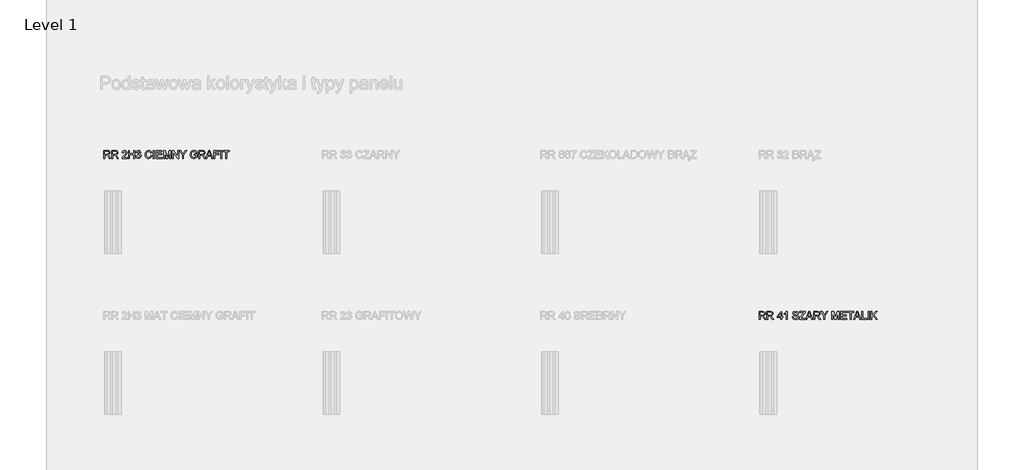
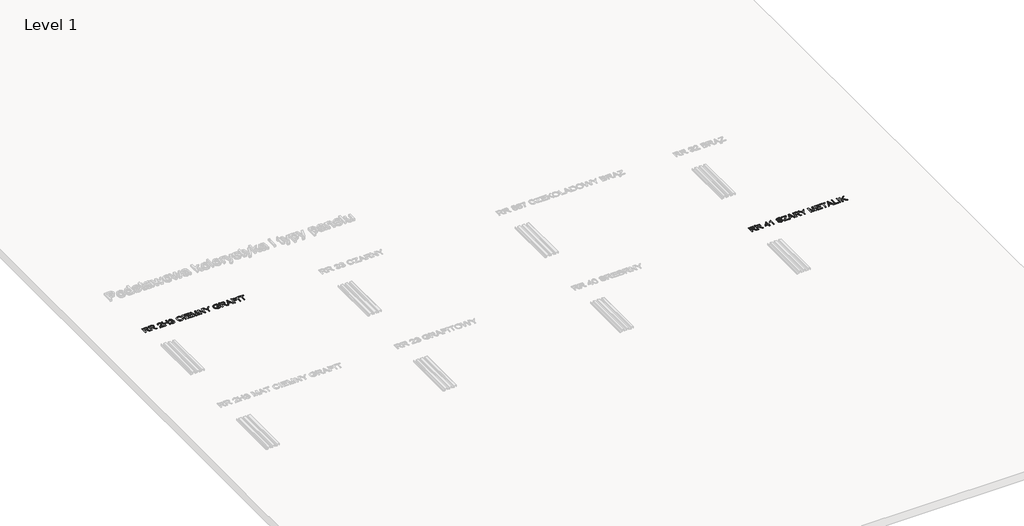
# One storey, part 6 of 9: 2 proxies.
"""IFC4 building model written with IfcOpenShell, lengths in millimetres."""

from ifc_helpers import new_model, si_unit, frame, origin, place, context, project, spatial, polyline, outline, extrude, element, save

model = new_model("IFC4")

# Units and contexts
model_context = context("Model", 3, world=origin())
ifc_project = project(units=[si_unit("LENGTHUNIT", "METRE", prefix="MILLI")], contexts=[model_context])

# Site, building, storey
site = spatial("IfcSite", under=ifc_project)
building = spatial("IfcBuilding", under=site)
storey = spatial("IfcBuildingStorey", under=building, Name="Level 1", Elevation=0.0)

# Proxies
placement = place(None, origin())
element("IfcBuildingElementProxy", 1, Name="150 Blue", ObjectType="150 Blue", at=placement, inside=storey, context=model_context, shape_type="SweptSolid", body=[
    extrude(outline(polyline([(-8736.4118342, 1464.3485888), (-8736.4118342, 1615.033054), (-8671.4806621, 1615.033054), (-8641.3327325, 1610.967958), (-8632.0529092, 1605.3393635), (-8624.8516192, 1596.583772), (-8620.2301016, 1585.7266546), (-8618.6895957, 1573.7934824), (-8621.2417771, 1558.9494439), (-8628.8983211, 1546.6437911), (-8641.8891541, 1537.6214852), (-8660.4442022, 1532.6274871), (-8649.7388361, 1524.5708714), (-8634.4717333, 1505.1834903), (-8609.3453931, 1464.3485888), (-8631.2343718, 1464.3485888), (-8650.8424821, 1495.5817702), (-8665.0059389, 1516.2567383), (-8674.9571469, 1526.0240053), (-8683.9150735, 1529.6108548), (-8694.8411687, 1530.2730423), (-8717.576276, 1530.2730423), (-8717.576276, 1464.3485888), (-8736.4118342, 1464.3485888)]), holes=[polyline([(-8717.576276, 1549.1086005), (-8675.4169994, 1549.1086005), (-8653.9142968, 1551.775745), (-8641.7006145, 1560.3106073), (-8637.5251539, 1573.0945066), (-8639.5163152, 1582.2823594), (-8645.4897991, 1589.6859846), (-8655.7675023, 1594.5696181), (-8670.6713217, 1596.1974959), (-8717.576276, 1596.1974959), (-8717.576276, 1549.1086005)])]), frame((0.0, 0.0, 600.0), z_axis=(0.0, 0.0, 1.0), x_axis=(1.0, 0.0, 0.0)), (0.0, 0.0, 1.0), 10.0),
    extrude(outline(polyline([(-8585.727369, 1464.3485888), (-8585.727369, 1615.033054), (-8520.7961968, 1615.033054), (-8490.6482673, 1610.967958), (-8481.368444, 1605.3393635), (-8474.1671539, 1596.583772), (-8469.5456364, 1585.7266546), (-8468.0051305, 1573.7934824), (-8470.5573119, 1558.9494439), (-8478.2138559, 1546.6437911), (-8491.2046888, 1537.6214852), (-8509.759737, 1532.6274871), (-8499.0543709, 1524.5708714), (-8483.7872681, 1505.1834903), (-8458.6609278, 1464.3485888), (-8480.5499066, 1464.3485888), (-8500.1580169, 1495.5817702), (-8514.3214737, 1516.2567383), (-8524.2726817, 1526.0240053), (-8533.2306083, 1529.6108548), (-8544.1567035, 1530.2730423), (-8566.8918108, 1530.2730423), (-8566.8918108, 1464.3485888), (-8585.727369, 1464.3485888)]), holes=[polyline([(-8566.8918108, 1549.1086005), (-8524.7325342, 1549.1086005), (-8503.2298316, 1551.775745), (-8491.0161493, 1560.3106073), (-8486.8406887, 1573.0945066), (-8488.83185, 1582.2823594), (-8494.8053339, 1589.6859846), (-8505.0830371, 1594.5696181), (-8519.9868564, 1596.1974959), (-8566.8918108, 1596.1974959), (-8566.8918108, 1549.1086005)])]), frame((0.0, 0.0, 600.0), z_axis=(0.0, 0.0, 1.0), x_axis=(1.0, 0.0, 0.0)), (0.0, 0.0, 1.0), 10.0),
    extrude(outline(polyline([(-8286.7128833, 1483.184147), (-8286.7128833, 1464.3485888), (-8385.5995636, 1464.3485888), (-8383.5762126, 1477.3348232), (-8372.1166885, 1497.3292097), (-8348.5170585, 1519.1630061), (-8316.0146842, 1550.5433403), (-8309.9308357, 1561.3590709), (-8307.9028862, 1571.880496), (-8309.8204711, 1581.3120707), (-8315.5732258, 1589.1525557), (-8324.4161893, 1594.4362608), (-8335.6044005, 1596.1974959), (-8347.3536317, 1594.4776476), (-8356.4817037, 1589.3181026), (-8362.3724141, 1581.1235311), (-8364.4095607, 1570.2986034), (-8383.2451188, 1572.6530482), (-8378.6787836, 1590.872404), (-8368.8057505, 1604.1805352), (-8354.1410545, 1612.3199243), (-8335.1997303, 1615.033054), (-8316.1204503, 1612.0164217), (-8301.4833454, 1602.9665246), (-8292.1713324, 1589.4468613), (-8289.0673281, 1573.0209302), (-8292.4150542, 1555.1602593), (-8303.5434846, 1536.6925832), (-8330.5276289, 1510.8856612), (-8352.1958784, 1492.7674729), (-8360.6939525, 1483.184147), (-8286.7128833, 1483.184147)])), frame((0.0, 0.0, 600.0), z_axis=(0.0, 0.0, 1.0), x_axis=(1.0, 0.0, 0.0)), (0.0, 0.0, 1.0), 10.0),
    extrude(outline(polyline([(-8260.8139908, 1464.3485888), (-8260.8139908, 1615.033054), (-8241.9784327, 1615.033054), (-8241.9784327, 1553.81749), (-8161.9273105, 1553.81749), (-8161.9273105, 1615.033054), (-8143.0917524, 1615.033054), (-8143.0917524, 1464.3485888), (-8161.9273105, 1464.3485888), (-8161.9273105, 1534.9819319), (-8241.9784327, 1534.9819319), (-8241.9784327, 1464.3485888), (-8260.8139908, 1464.3485888)])), frame((0.0, 0.0, 600.0), z_axis=(0.0, 0.0, 1.0), x_axis=(1.0, 0.0, 0.0)), (0.0, 0.0, 1.0), 10.0),
    extrude(outline(polyline([(-8117.1928599, 1504.3741499), (-8098.3573018, 1506.7285947), (-8094.1404544, 1494.8919915), (-8087.9646354, 1486.8997551), (-8079.5263421, 1482.3472154), (-8068.522072, 1480.8297022), (-8055.6094139, 1482.9174325), (-8045.6398119, 1489.1806235), (-8039.2662563, 1498.5248262), (-8037.1417378, 1509.8555916), (-8039.2478622, 1520.6115414), (-8045.5662355, 1529.3349433), (-8055.1311673, 1535.1152891), (-8066.9769676, 1537.0420711), (-8080.1839312, 1534.9819319), (-8078.0870038, 1553.81749), (-8075.0703715, 1553.5967608), (-8053.6964276, 1559.0046262), (-8046.5779109, 1565.8656254), (-8044.2050721, 1575.6328924), (-8045.9249204, 1583.767683), (-8051.0844654, 1590.3665663), (-8058.9571401, 1594.7397635), (-8068.8163776, 1596.1974959), (-8078.6940091, 1594.7259679), (-8086.7690189, 1590.311384), (-8092.6643279, 1582.9537441), (-8096.002857, 1572.6530482), (-8114.8384152, 1575.007493), (-8109.2925941, 1591.9208677), (-8099.4241596, 1604.5484172), (-8085.9228903, 1612.4118948), (-8069.4785651, 1615.033054), (-8046.7618519, 1609.864312), (-8030.8693498, 1595.7376434), (-8025.3695139, 1576.7365383), (-8030.5934383, 1559.3725082), (-8046.0444821, 1546.9013085), (-8034.2538641, 1542.1372367), (-8025.5166667, 1534.0254387), (-8020.1088014, 1523.0073729), (-8018.3061796, 1509.5244978), (-8021.9114232, 1491.1671863), (-8032.7271538, 1475.8265071), (-8049.0519174, 1465.4522348), (-8069.1842596, 1461.994144), (-8087.3944183, 1464.9463971), (-8102.2200627, 1473.8031561), (-8112.5299556, 1487.3504106), (-8117.1928599, 1504.3741499)])), frame((0.0, 0.0, 600.0), z_axis=(0.0, 0.0, 1.0), x_axis=(1.0, 0.0, 0.0)), (0.0, 0.0, 1.0), 10.0),
    extrude(outline(polyline([(-7829.9505981, 1517.9122073), (-7811.1150399, 1513.056165), (-7819.8062521, 1491.1074054), (-7833.445477, 1475.072349), (-7851.3613302, 1465.2636953), (-7872.8824269, 1461.994144), (-7894.7300189, 1464.4681505), (-7912.0802535, 1471.8901697), (-7925.3791876, 1484.0026844), (-7935.0728782, 1500.5481771), (-7940.9911798, 1519.9999376), (-7942.963947, 1540.8312556), (-7940.7336624, 1562.8030078), (-7934.0428086, 1581.7765217), (-7923.2408735, 1597.1493905), (-7908.6773451, 1608.3192076), (-7891.4052854, 1615.120426), (-7872.4777567, 1617.3874988), (-7851.8257812, 1614.4536399), (-7834.7514581, 1605.6520632), (-7821.7882163, 1591.5253945), (-7813.4694847, 1572.61626), (-7832.3050429, 1568.1280997), (-7838.8349483, 1581.8638936), (-7847.7560867, 1591.2862712), (-7859.1788226, 1596.7355233), (-7873.2135207, 1598.5519407), (-7889.3911315, 1596.5377867), (-7902.6808685, 1590.495325), (-7912.7654337, 1581.0591518), (-7919.3275288, 1568.8638636), (-7924.1283889, 1540.8680438), (-7922.7074446, 1523.4672254), (-7918.444612, 1508.4208518), (-7911.1789426, 1496.3037386), (-7900.7494881, 1487.6907014), (-7888.2460987, 1482.544952), (-7874.7586251, 1480.8297022), (-7859.0362683, 1483.1657529), (-7845.9350708, 1490.1739049), (-7836.0436436, 1501.7805818), (-7829.9505981, 1517.9122073)])), frame((0.0, 0.0, 600.0), z_axis=(0.0, 0.0, 1.0), x_axis=(1.0, 0.0, 0.0)), (0.0, 0.0, 1.0), 10.0),
    extrude(outline(polyline([(-7782.8617027, 1464.3485888), (-7782.8617027, 1615.033054), (-7764.0261446, 1615.033054), (-7764.0261446, 1464.3485888), (-7782.8617027, 1464.3485888)])), frame((0.0, 0.0, 600.0), z_axis=(0.0, 0.0, 1.0), x_axis=(1.0, 0.0, 0.0)), (0.0, 0.0, 1.0), 10.0),
    extrude(outline(polyline([(-7726.3550282, 1464.3485888), (-7726.3550282, 1615.033054), (-7618.0505689, 1615.033054), (-7618.0505689, 1596.1974959), (-7707.5194701, 1596.1974959), (-7707.5194701, 1551.4630453), (-7622.7594584, 1551.4630453), (-7622.7594584, 1532.6274871), (-7707.5194701, 1532.6274871), (-7707.5194701, 1483.184147), (-7615.6961241, 1483.184147), (-7615.6961241, 1464.3485888), (-7726.3550282, 1464.3485888)])), frame((0.0, 0.0, 600.0), z_axis=(0.0, 0.0, 1.0), x_axis=(1.0, 0.0, 0.0)), (0.0, 0.0, 1.0), 10.0),
    extrude(outline(polyline([(-7587.4427869, 1464.3485888), (-7587.4427869, 1615.033054), (-7555.1427477, 1615.033054), (-7524.2406601, 1508.825522), (-7517.9866662, 1486.6422377), (-7511.2544257, 1510.664932), (-7480.9409493, 1615.033054), (-7448.5305455, 1615.033054), (-7448.5305455, 1464.3485888), (-7467.3661036, 1464.3485888), (-7467.3661036, 1596.1974959), (-7505.2211609, 1464.3485888), (-7530.7153832, 1464.3485888), (-7568.6072287, 1596.1974959), (-7568.6072287, 1464.3485888), (-7587.4427869, 1464.3485888)])), frame((0.0, 0.0, 600.0), z_axis=(0.0, 0.0, 1.0), x_axis=(1.0, 0.0, 0.0)), (0.0, 0.0, 1.0), 10.0),
    extrude(outline(polyline([(-7415.5683187, 1464.3485888), (-7415.5683187, 1615.033054), (-7395.4083854, 1615.033054), (-7316.6816384, 1495.6553466), (-7316.6816384, 1615.033054), (-7297.8460803, 1615.033054), (-7297.8460803, 1464.3485888), (-7318.0060136, 1464.3485888), (-7396.7327606, 1583.7630844), (-7396.7327606, 1464.3485888), (-7415.5683187, 1464.3485888)])), frame((0.0, 0.0, 600.0), z_axis=(0.0, 0.0, 1.0), x_axis=(1.0, 0.0, 0.0)), (0.0, 0.0, 1.0), 10.0),
    extrude(outline(polyline([(-7222.5038477, 1464.3485888), (-7222.5038477, 1528.176115), (-7281.3649669, 1615.033054), (-7259.1816826, 1615.033054), (-7227.7645602, 1568.6431344), (-7211.688117, 1544.951534), (-7195.5380974, 1570.3353916), (-7167.0272428, 1615.033054), (-7144.8071703, 1615.033054), (-7203.6682895, 1528.176115), (-7203.6682895, 1464.3485888), (-7222.5038477, 1464.3485888)])), frame((0.0, 0.0, 600.0), z_axis=(0.0, 0.0, 1.0), x_axis=(1.0, 0.0, 0.0)), (0.0, 0.0, 1.0), 10.0),
    extrude(outline(polyline([(-6998.8315946, 1523.209708), (-6998.8315946, 1542.0452662), (-6937.6160306, 1542.0452662), (-6937.6160306, 1485.7225327), (-6967.8375365, 1467.9538324), (-6999.7880878, 1461.994144), (-7020.9183099, 1464.3623844), (-7040.0159839, 1471.4671054), (-7055.880895, 1483.0599868), (-7067.312828, 1498.8927082), (-7074.224411, 1517.8846162), (-7076.528272, 1538.9550574), (-7074.233608, 1560.17725), (-7067.3496162, 1579.9187176), (-7056.161405, 1596.4780059), (-7040.954083, 1608.1536607), (-7022.4312246, 1615.0790393), (-7001.296404, 1617.3874988), (-6971.8290561, 1612.0348158), (-6960.0798249, 1605.6336691), (-6951.1724821, 1597.135595), (-6939.7865344, 1572.2115898), (-6957.1505645, 1567.3187593), (-6965.7406091, 1584.7379717), (-6980.4191007, 1594.7811502), (-7001.5907095, 1598.5519407), (-7025.7053743, 1594.4868446), (-7042.1129113, 1583.8182667), (-7051.8066019, 1569.305322), (-7057.6927138, 1539.7276096), (-7055.9222817, 1521.7151874), (-7050.6109854, 1506.8941416), (-7041.9197733, 1495.3702381), (-7030.0095937, 1487.249243), (-7016.0714646, 1482.4345874), (-7001.296404, 1480.8297022), (-6975.5262702, 1485.6673504), (-6956.4515887, 1495.9864404), (-6956.4515887, 1523.209708), (-6998.8315946, 1523.209708)])), frame((0.0, 0.0, 600.0), z_axis=(0.0, 0.0, 1.0), x_axis=(1.0, 0.0, 0.0)), (0.0, 0.0, 1.0), 10.0),
    extrude(outline(polyline([(-6907.0082486, 1464.3485888), (-6907.0082486, 1615.033054), (-6842.0770764, 1615.033054), (-6811.9291469, 1610.967958), (-6802.6493236, 1605.3393635), (-6795.4480336, 1596.583772), (-6790.826516, 1585.7266546), (-6789.2860101, 1573.7934824), (-6791.8381915, 1558.9494439), (-6799.4947355, 1546.6437911), (-6812.4855685, 1537.6214852), (-6831.0406166, 1532.6274871), (-6820.3352505, 1524.5708714), (-6805.0681477, 1505.1834903), (-6779.9418075, 1464.3485888), (-6801.8307862, 1464.3485888), (-6821.4388965, 1495.5817702), (-6835.6023533, 1516.2567383), (-6845.5535613, 1526.0240053), (-6854.5114879, 1529.6108548), (-6865.4375831, 1530.2730423), (-6888.1726904, 1530.2730423), (-6888.1726904, 1464.3485888), (-6907.0082486, 1464.3485888)]), holes=[polyline([(-6888.1726904, 1549.1086005), (-6846.0134138, 1549.1086005), (-6824.5107112, 1551.775745), (-6812.2970289, 1560.3106073), (-6808.1215683, 1573.0945066), (-6810.1127296, 1582.2823594), (-6816.0862135, 1589.6859846), (-6826.3639167, 1594.5696181), (-6841.267736, 1596.1974959), (-6888.1726904, 1596.1974959), (-6888.1726904, 1549.1086005)])]), frame((0.0, 0.0, 600.0), z_axis=(0.0, 0.0, 1.0), x_axis=(1.0, 0.0, 0.0)), (0.0, 0.0, 1.0), 10.0),
    extrude(outline(polyline([(-6773.8349663, 1464.3485888), (-6713.6862601, 1615.033054), (-6697.6466051, 1615.033054), (-6637.5346871, 1464.3485888), (-6657.4371031, 1464.3485888), (-6674.6539804, 1511.4374842), (-6736.7524612, 1511.4374842), (-6753.9693386, 1464.3485888), (-6773.8349663, 1464.3485888)]), holes=[polyline([(-6729.8362797, 1530.2730423), (-6681.5333737, 1530.2730423), (-6695.1450076, 1567.3187593), (-6705.7032208, 1596.1974959), (-6715.0842117, 1570.5561208), (-6729.8362797, 1530.2730423)])]), frame((0.0, 0.0, 600.0), z_axis=(0.0, 0.0, 1.0), x_axis=(1.0, 0.0, 0.0)), (0.0, 0.0, 1.0), 10.0),
    extrude(outline(polyline([(-6617.411542, 1464.3485888), (-6617.411542, 1615.033054), (-6516.1704169, 1615.033054), (-6516.1704169, 1596.1974959), (-6598.5759838, 1596.1974959), (-6598.5759838, 1551.4630453), (-6527.9426408, 1551.4630453), (-6527.9426408, 1532.6274871), (-6598.5759838, 1532.6274871), (-6598.5759838, 1464.3485888), (-6617.411542, 1464.3485888)])), frame((0.0, 0.0, 600.0), z_axis=(0.0, 0.0, 1.0), x_axis=(1.0, 0.0, 0.0)), (0.0, 0.0, 1.0), 10.0),
    extrude(outline(polyline([(-6487.9170797, 1464.3485888), (-6487.9170797, 1615.033054), (-6469.0815215, 1615.033054), (-6469.0815215, 1464.3485888), (-6487.9170797, 1464.3485888)])), frame((0.0, 0.0, 600.0), z_axis=(0.0, 0.0, 1.0), x_axis=(1.0, 0.0, 0.0)), (0.0, 0.0, 1.0), 10.0),
    extrude(outline(polyline([(-6393.7392889, 1464.3485888), (-6393.7392889, 1596.1974959), (-6443.1826291, 1596.1974959), (-6443.1826291, 1615.033054), (-6325.4603906, 1615.033054), (-6325.4603906, 1596.1974959), (-6374.9037308, 1596.1974959), (-6374.9037308, 1464.3485888), (-6393.7392889, 1464.3485888)])), frame((0.0, 0.0, 600.0), z_axis=(0.0, 0.0, 1.0), x_axis=(1.0, 0.0, 0.0)), (0.0, 0.0, 1.0), 10.0),
])
element("IfcBuildingElementProxy", 2, Name="150 Blue", ObjectType="150 Blue", at=placement, inside=storey, context=model_context, shape_type="SweptSolid", body=[
    extrude(outline(polyline([(3863.5881658, -1635.6514112), (3863.5881658, -1484.966946), (3928.5193379, -1484.966946), (3958.6672675, -1489.032042), (3967.9470908, -1494.6606365), (3975.1483808, -1503.416228), (3979.7698984, -1514.2733454), (3981.3104043, -1526.2065176), (3978.7582229, -1541.0505561), (3971.1016789, -1553.3562089), (3958.1108459, -1562.3785148), (3939.5557978, -1567.3725129), (3950.2611639, -1575.4291286), (3965.5282667, -1594.8165097), (3990.6546069, -1635.6514112), (3968.7656282, -1635.6514112), (3949.1575179, -1604.4182298), (3934.9940611, -1583.7432617), (3925.0428531, -1573.9759947), (3916.0849265, -1570.3891452), (3905.1588313, -1569.7269577), (3882.423724, -1569.7269577), (3882.423724, -1635.6514112), (3863.5881658, -1635.6514112)]), holes=[polyline([(3882.423724, -1550.8913995), (3924.5830006, -1550.8913995), (3946.0857032, -1548.224255), (3958.2993855, -1539.6893927), (3962.4748461, -1526.9054934), (3960.4836848, -1517.7176406), (3954.5102009, -1510.3140154), (3944.2324977, -1505.4303819), (3929.3286783, -1503.8025041), (3882.423724, -1503.8025041), (3882.423724, -1550.8913995)])]), frame((0.0, 0.0, 600.0), z_axis=(0.0, 0.0, 1.0), x_axis=(1.0, 0.0, 0.0)), (0.0, 0.0, 1.0), 10.0),
    extrude(outline(polyline([(4014.272631, -1635.6514112), (4014.272631, -1484.966946), (4079.2038032, -1484.966946), (4109.3517327, -1489.032042), (4118.631556, -1494.6606365), (4125.8328461, -1503.416228), (4130.4543636, -1514.2733454), (4131.9948695, -1526.2065176), (4129.4426881, -1541.0505561), (4121.7861441, -1553.3562089), (4108.7953112, -1562.3785148), (4090.240263, -1567.3725129), (4100.9456291, -1575.4291286), (4116.2127319, -1594.8165097), (4141.3390722, -1635.6514112), (4119.4500934, -1635.6514112), (4099.8419831, -1604.4182298), (4085.6785263, -1583.7432617), (4075.7273183, -1573.9759947), (4066.7693917, -1570.3891452), (4055.8432965, -1569.7269577), (4033.1081892, -1569.7269577), (4033.1081892, -1635.6514112), (4014.272631, -1635.6514112)]), holes=[polyline([(4033.1081892, -1550.8913995), (4075.2674658, -1550.8913995), (4096.7701684, -1548.224255), (4108.9838507, -1539.6893927), (4113.1593113, -1526.9054934), (4111.16815, -1517.7176406), (4105.1946661, -1510.3140154), (4094.9169629, -1505.4303819), (4080.0131436, -1503.8025041), (4033.1081892, -1503.8025041), (4033.1081892, -1550.8913995)])]), frame((0.0, 0.0, 600.0), z_axis=(0.0, 0.0, 1.0), x_axis=(1.0, 0.0, 0.0)), (0.0, 0.0, 1.0), 10.0),
    extrude(outline(polyline([(4277.9704452, -1635.6514112), (4277.9704452, -1600.3347397), (4209.6915469, -1600.3347397), (4209.6915469, -1581.4991815), (4282.6793347, -1487.3213907), (4296.8060033, -1487.3213907), (4296.8060033, -1581.4991815), (4315.6415615, -1581.4991815), (4315.6415615, -1600.3347397), (4296.8060033, -1600.3347397), (4296.8060033, -1635.6514112), (4277.9704452, -1635.6514112)]), holes=[polyline([(4277.9704452, -1581.4991815), (4277.9704452, -1523.3002499), (4232.8681126, -1581.4991815), (4277.9704452, -1581.4991815)])]), frame((0.0, 0.0, 600.0), z_axis=(0.0, 0.0, 1.0), x_axis=(1.0, 0.0, 0.0)), (0.0, 0.0, 1.0), 10.0),
    extrude(outline(polyline([(4402.7560179, -1635.6514112), (4383.9204598, -1635.6514112), (4383.9204598, -1518.2234783), (4366.078183, -1530.9338013), (4346.2493435, -1540.4435508), (4346.2493435, -1522.6380623), (4373.8588872, -1505.0165147), (4390.6159121, -1484.966946), (4402.7560179, -1484.966946), (4402.7560179, -1635.6514112)])), frame((0.0, 0.0, 600.0), z_axis=(0.0, 0.0, 1.0), x_axis=(1.0, 0.0, 0.0)), (0.0, 0.0, 1.0), 10.0),
    extrude(outline(polyline([(4506.3515878, -1583.8536263), (4525.1871459, -1583.8536263), (4531.2571988, -1602.7075785), (4546.0828432, -1614.6269552), (4568.6707978, -1619.1702978), (4588.3524845, -1615.7306011), (4601.0628074, -1606.2760339), (4605.2382681, -1593.6392873), (4602.1112711, -1581.8854576), (4589.3089777, -1573.3322012), (4561.8833749, -1566.1401082), (4532.3608448, -1556.8510878), (4516.3395839, -1542.8347838), (4511.0604773, -1524.1095903), (4512.6929537, -1513.0777289), (4517.5903827, -1502.7908286), (4525.6240058, -1494.0720253), (4536.6650642, -1487.744455), (4564.5873076, -1482.6125012), (4594.3857492, -1487.9835783), (4605.8084852, -1494.6146513), (4614.251377, -1503.7657159), (4619.5948629, -1514.8665551), (4621.7193815, -1527.3469518), (4602.8838233, -1527.3469518), (4599.4257326, -1516.1081569), (4592.2152454, -1507.9963589), (4580.9488593, -1503.0851342), (4565.3230716, -1501.4480593), (4549.3294019, -1503.0667401), (4538.3573214, -1507.9227825), (4532.0113569, -1515.0688902), (4529.8960355, -1523.5577673), (4531.3951546, -1530.7958455), (4535.892512, -1536.6175781), (4566.6474468, -1547.1390031), (4599.9775555, -1556.5935704), (4610.7151113, -1563.4269785), (4618.2061084, -1571.8606732), (4622.6068968, -1581.8026841), (4624.0738262, -1593.1610407), (4622.3861676, -1604.7723162), (4617.3231916, -1615.6938129), (4609.091832, -1625.0931979), (4597.8990223, -1632.1381381), (4584.4391398, -1636.5389265), (4569.4065617, -1638.005856), (4550.9526812, -1636.4239634), (4535.7637533, -1631.6782856), (4523.6650342, -1623.7504286), (4514.4817799, -1612.6219983), (4508.5864709, -1599.0655468), (4506.3515878, -1583.8536263)])), frame((0.0, 0.0, 600.0), z_axis=(0.0, 0.0, 1.0), x_axis=(1.0, 0.0, 0.0)), (0.0, 0.0, 1.0), 10.0),
    extrude(outline(polyline([(4640.5549396, -1635.6514112), (4640.5549396, -1616.1168772), (4717.5894294, -1521.7183573), (4732.2311328, -1503.8025041), (4649.9727187, -1503.8025041), (4649.9727187, -1484.966946), (4755.9227333, -1484.966946), (4755.9227333, -1503.8025041), (4671.60418, -1607.1037684), (4663.6579289, -1616.815853), (4758.2771781, -1616.815853), (4758.2771781, -1635.6514112), (4640.5549396, -1635.6514112)])), frame((0.0, 0.0, 600.0), z_axis=(0.0, 0.0, 1.0), x_axis=(1.0, 0.0, 0.0)), (0.0, 0.0, 1.0), 10.0),
    extrude(outline(polyline([(4761.955998, -1635.6514112), (4822.1047042, -1484.966946), (4838.1443592, -1484.966946), (4898.2562772, -1635.6514112), (4878.3538613, -1635.6514112), (4861.1369839, -1588.5625158), (4799.0385031, -1588.5625158), (4781.8216258, -1635.6514112), (4761.955998, -1635.6514112)]), holes=[polyline([(4805.9546846, -1569.7269577), (4854.2575906, -1569.7269577), (4840.6459568, -1532.6812407), (4830.0877435, -1503.8025041), (4820.7067526, -1529.4438792), (4805.9546846, -1569.7269577)])]), frame((0.0, 0.0, 600.0), z_axis=(0.0, 0.0, 1.0), x_axis=(1.0, 0.0, 0.0)), (0.0, 0.0, 1.0), 10.0),
    extrude(outline(polyline([(4918.3794224, -1635.6514112), (4918.3794224, -1484.966946), (4983.3105945, -1484.966946), (5013.458524, -1489.032042), (5022.7383474, -1494.6606365), (5029.9396374, -1503.416228), (5034.561155, -1514.2733454), (5036.1016608, -1526.2065176), (5033.5494795, -1541.0505561), (5025.8929355, -1553.3562089), (5012.9021025, -1562.3785148), (4994.3470544, -1567.3725129), (5005.0524204, -1575.4291286), (5020.3195232, -1594.8165097), (5045.4458635, -1635.6514112), (5023.5568848, -1635.6514112), (5003.9487744, -1604.4182298), (4989.7853176, -1583.7432617), (4979.8341097, -1573.9759947), (4970.8761831, -1570.3891452), (4959.9500878, -1569.7269577), (4937.2149805, -1569.7269577), (4937.2149805, -1635.6514112), (4918.3794224, -1635.6514112)]), holes=[polyline([(4937.2149805, -1550.8913995), (4979.3742572, -1550.8913995), (5000.8769598, -1548.224255), (5013.090642, -1539.6893927), (5017.2661027, -1526.9054934), (5015.2749414, -1517.7176406), (5009.3014575, -1510.3140154), (4999.0237542, -1505.4303819), (4984.1199349, -1503.8025041), (4937.2149805, -1503.8025041), (4937.2149805, -1550.8913995)])]), frame((0.0, 0.0, 600.0), z_axis=(0.0, 0.0, 1.0), x_axis=(1.0, 0.0, 0.0)), (0.0, 0.0, 1.0), 10.0),
    extrude(outline(polyline([(5111.4438934, -1635.6514112), (5111.4438934, -1571.823885), (5052.5827742, -1484.966946), (5074.7660585, -1484.966946), (5106.1831809, -1531.3568656), (5122.2596241, -1555.048466), (5138.4096437, -1529.6646084), (5166.9204983, -1484.966946), (5189.1405708, -1484.966946), (5130.2794516, -1571.823885), (5130.2794516, -1635.6514112), (5111.4438934, -1635.6514112)])), frame((0.0, 0.0, 600.0), z_axis=(0.0, 0.0, 1.0), x_axis=(1.0, 0.0, 0.0)), (0.0, 0.0, 1.0), 10.0),
    extrude(outline(polyline([(5264.4828034, -1635.6514112), (5264.4828034, -1484.966946), (5296.7828426, -1484.966946), (5327.6849302, -1591.174478), (5333.9389241, -1613.3577623), (5340.6711646, -1589.335068), (5370.984641, -1484.966946), (5403.3950448, -1484.966946), (5403.3950448, -1635.6514112), (5384.5594867, -1635.6514112), (5384.5594867, -1503.8025041), (5346.7044294, -1635.6514112), (5321.2102071, -1635.6514112), (5283.3183616, -1503.8025041), (5283.3183616, -1635.6514112), (5264.4828034, -1635.6514112)])), frame((0.0, 0.0, 600.0), z_axis=(0.0, 0.0, 1.0), x_axis=(1.0, 0.0, 0.0)), (0.0, 0.0, 1.0), 10.0),
    extrude(outline(polyline([(5436.3572716, -1635.6514112), (5436.3572716, -1484.966946), (5544.661731, -1484.966946), (5544.661731, -1503.8025041), (5455.1928297, -1503.8025041), (5455.1928297, -1548.5369547), (5539.9528414, -1548.5369547), (5539.9528414, -1567.3725129), (5455.1928297, -1567.3725129), (5455.1928297, -1616.815853), (5547.0161757, -1616.815853), (5547.0161757, -1635.6514112), (5436.3572716, -1635.6514112)])), frame((0.0, 0.0, 600.0), z_axis=(0.0, 0.0, 1.0), x_axis=(1.0, 0.0, 0.0)), (0.0, 0.0, 1.0), 10.0),
    extrude(outline(polyline([(5612.9406293, -1635.6514112), (5612.9406293, -1503.8025041), (5563.4972891, -1503.8025041), (5563.4972891, -1484.966946), (5681.2195276, -1484.966946), (5681.2195276, -1503.8025041), (5631.7761874, -1503.8025041), (5631.7761874, -1635.6514112), (5612.9406293, -1635.6514112)])), frame((0.0, 0.0, 600.0), z_axis=(0.0, 0.0, 1.0), x_axis=(1.0, 0.0, 0.0)), (0.0, 0.0, 1.0), 10.0),
    extrude(outline(polyline([(5684.8983475, -1635.6514112), (5745.0470537, -1484.966946), (5761.0867087, -1484.966946), (5821.1986267, -1635.6514112), (5801.2962108, -1635.6514112), (5784.0793334, -1588.5625158), (5721.9808526, -1588.5625158), (5704.7639753, -1635.6514112), (5684.8983475, -1635.6514112)]), holes=[polyline([(5728.8970341, -1569.7269577), (5777.1999401, -1569.7269577), (5763.5883063, -1532.6812407), (5753.030093, -1503.8025041), (5743.6491021, -1529.4438792), (5728.8970341, -1569.7269577)])]), frame((0.0, 0.0, 600.0), z_axis=(0.0, 0.0, 1.0), x_axis=(1.0, 0.0, 0.0)), (0.0, 0.0, 1.0), 10.0),
    extrude(outline(polyline([(5841.3217719, -1635.6514112), (5841.3217719, -1484.966946), (5860.15733, -1484.966946), (5860.15733, -1616.815853), (5935.4995626, -1616.815853), (5935.4995626, -1635.6514112), (5841.3217719, -1635.6514112)])), frame((0.0, 0.0, 600.0), z_axis=(0.0, 0.0, 1.0), x_axis=(1.0, 0.0, 0.0)), (0.0, 0.0, 1.0), 10.0),
    extrude(outline(polyline([(5959.0440103, -1635.6514112), (5959.0440103, -1484.966946), (5977.8795685, -1484.966946), (5977.8795685, -1635.6514112), (5959.0440103, -1635.6514112)])), frame((0.0, 0.0, 600.0), z_axis=(0.0, 0.0, 1.0), x_axis=(1.0, 0.0, 0.0)), (0.0, 0.0, 1.0), 10.0),
    extrude(outline(polyline([(6015.5506848, -1635.6514112), (6015.5506848, -1484.966946), (6034.3862429, -1484.966946), (6034.3862429, -1558.727286), (6111.6414619, -1484.966946), (6137.9818128, -1484.966946), (6073.0874288, -1546.918274), (6140.3362575, -1635.6514112), (6117.3068446, -1635.6514112), (6059.7333124, -1559.646991), (6034.3862429, -1583.8536263), (6034.3862429, -1635.6514112), (6015.5506848, -1635.6514112)])), frame((0.0, 0.0, 600.0), z_axis=(0.0, 0.0, 1.0), x_axis=(1.0, 0.0, 0.0)), (0.0, 0.0, 1.0), 10.0),
])

save(model, "model.ifc")
